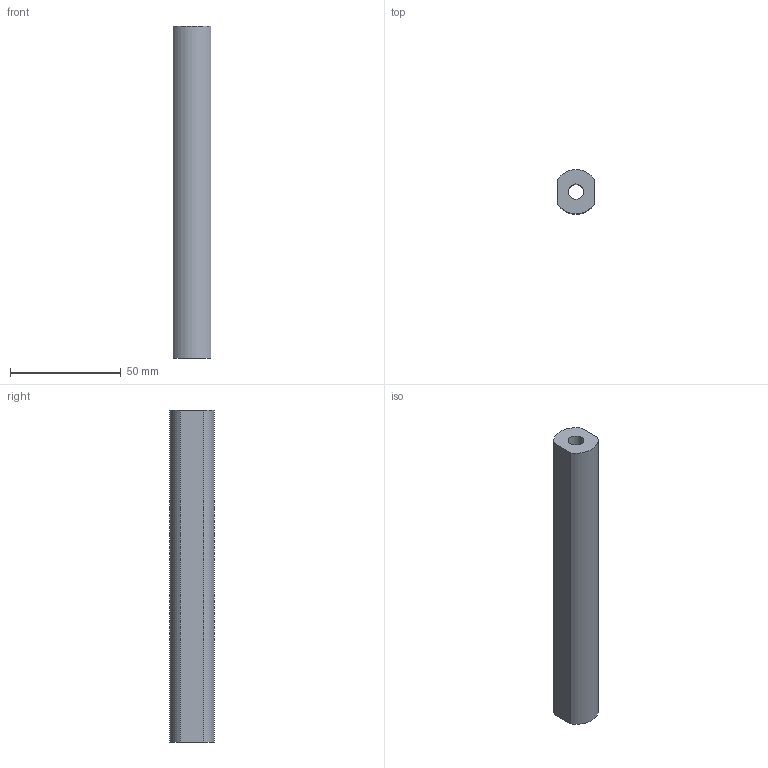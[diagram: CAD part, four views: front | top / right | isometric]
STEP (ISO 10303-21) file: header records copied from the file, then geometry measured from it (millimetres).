
FILE_DESCRIPTION (( 'STEP AP214' ), '1' );
FILE_NAME ('FGDT 150.step', '2017-04-05T07:36:53', ( '' ), ( '' ), 'SwSTEP 2.0', 'SolidWorks 2015', '' );
FILE_SCHEMA (( 'AUTOMOTIVE_DESIGN' ));
Length unit declared in the file: millimetre
Products named in the file (1): FGDT 150
Bounding box: 17 x 20 x 150 mm (x, y, z)
Volume: 38139.8 mm3; surface area: 13063.8 mm2
Topology: 1 solids, 1 shells, 8 faces, 18 edges, 12 vertices
Faces by surface type: cylinder 4, plane 4
Entity records: 268 total; most frequent: DIRECTION 44, CARTESIAN_POINT 39, ORIENTED_EDGE 36, EDGE_CURVE 18, AXIS2_PLACEMENT_3D 17, VERTEX_POINT 12, VECTOR 10, LINE 10
